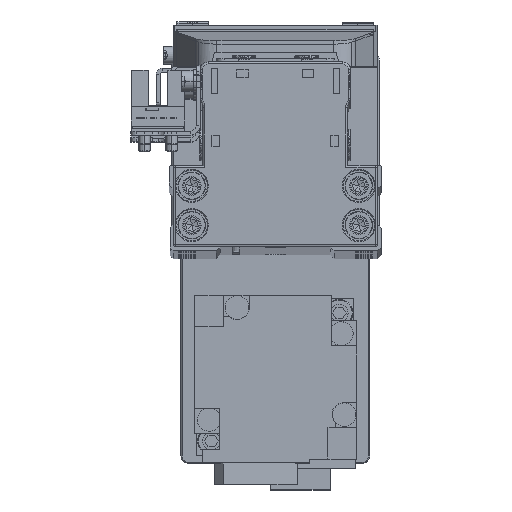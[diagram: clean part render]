
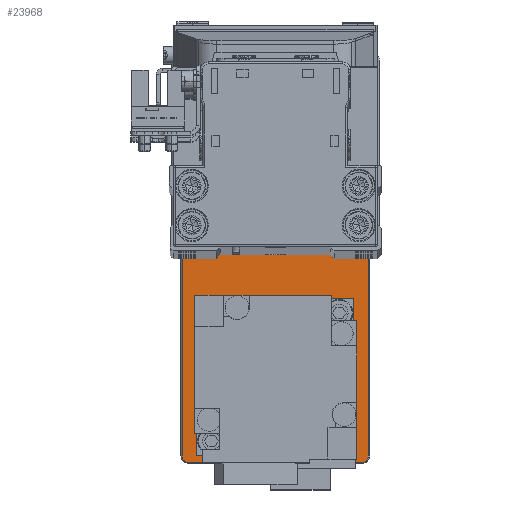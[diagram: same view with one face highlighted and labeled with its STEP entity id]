
A CAD part, top view. The second image highlights one B-rep face of the part: STEP entity #23968.
In plain terms, the highlighted planar face has unit normal (0, 0, 1).
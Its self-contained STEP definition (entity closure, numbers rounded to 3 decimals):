
#20 = EDGE_CURVE ( 'NONE', #6992, #15677, #23066, .T. ) ;
#161 = DIRECTION ( 'NONE',  ( 1., 0., 0. ) ) ;
#335 = EDGE_CURVE ( 'NONE', #16186, #21342, #17219, .T. ) ;
#877 = CIRCLE ( 'NONE', #24067, 1.7 ) ;
#1172 = ORIENTED_EDGE ( 'NONE', *, *, #9581, .T. ) ;
#1811 = CARTESIAN_POINT ( 'NONE',  ( -51.7, 22., 5. ) ) ;
#2199 = DIRECTION ( 'NONE',  ( 1., 0., 0. ) ) ;
#2227 = ORIENTED_EDGE ( 'NONE', *, *, #15640, .T. ) ;
#2600 = PLANE ( 'NONE',  #36663 ) ;
#2848 = ORIENTED_EDGE ( 'NONE', *, *, #34765, .T. ) ;
#2851 = CARTESIAN_POINT ( 'NONE',  ( -38.3, 0., 5. ) ) ;
#3266 = VECTOR ( 'NONE', #38837, 1000. ) ;
#4208 = VERTEX_POINT ( 'NONE', #27973 ) ;
#5016 = DIRECTION ( 'NONE',  ( 1., 0., 0. ) ) ;
#5106 = VERTEX_POINT ( 'NONE', #7471 ) ;
#5699 = FACE_BOUND ( 'NONE', #24199, .T. ) ;
#6992 = VERTEX_POINT ( 'NONE', #2851 ) ;
#7222 = CARTESIAN_POINT ( 'NONE',  ( -28., 0., 5. ) ) ;
#7467 = VECTOR ( 'NONE', #38652, 1000. ) ;
#7471 = CARTESIAN_POINT ( 'NONE',  ( 50., 23.7, 5. ) ) ;
#8096 = EDGE_CURVE ( 'NONE', #39281, #34410, #27742, .T. ) ;
#9573 = CARTESIAN_POINT ( 'NONE',  ( 42.8, 0., 5. ) ) ;
#9581 = EDGE_CURVE ( 'NONE', #35205, #5106, #32457, .T. ) ;
#9817 = CARTESIAN_POINT ( 'NONE',  ( -50., 22., 5. ) ) ;
#9850 = AXIS2_PLACEMENT_3D ( 'NONE', #9817, #22474, #35083 ) ;
#10304 = CARTESIAN_POINT ( 'NONE',  ( -50., 23.7, 5. ) ) ;
#10990 = DIRECTION ( 'NONE',  ( 1., 0., 0. ) ) ;
#12090 = EDGE_CURVE ( 'NONE', #22013, #4208, #877, .T. ) ;
#12272 = DIRECTION ( 'NONE',  ( 1., 0., 0. ) ) ;
#12598 = ORIENTED_EDGE ( 'NONE', *, *, #335, .T. ) ;
#12652 = CARTESIAN_POINT ( 'NONE',  ( -51.7, -22., 5. ) ) ;
#12768 = CARTESIAN_POINT ( 'NONE',  ( 50., -22., 5. ) ) ;
#13151 = AXIS2_PLACEMENT_3D ( 'NONE', #15060, #27723, #40318 ) ;
#13288 = CARTESIAN_POINT ( 'NONE',  ( 50., -23.7, 5. ) ) ;
#13406 = LINE ( 'NONE', #26073, #7467 ) ;
#13592 = LINE ( 'NONE', #26250, #3266 ) ;
#14594 = AXIS2_PLACEMENT_3D ( 'NONE', #28049, #40648, #12272 ) ;
#15060 = CARTESIAN_POINT ( 'NONE',  ( 30., 0., 5. ) ) ;
#15242 = CARTESIAN_POINT ( 'NONE',  ( 0., 0., 5. ) ) ;
#15640 = EDGE_CURVE ( 'NONE', #32479, #38866, #37303, .T. ) ;
#15676 = VECTOR ( 'NONE', #161, 1000. ) ;
#15677 = VERTEX_POINT ( 'NONE', #33894 ) ;
#15907 = LINE ( 'NONE', #28544, #15676 ) ;
#16186 = VERTEX_POINT ( 'NONE', #9573 ) ;
#16414 = AXIS2_PLACEMENT_3D ( 'NONE', #7222, #19891, #32514 ) ;
#17219 = CIRCLE ( 'NONE', #17226, 12.8 ) ;
#17226 = AXIS2_PLACEMENT_3D ( 'NONE', #26770, #39351, #10990 ) ;
#17963 = CARTESIAN_POINT ( 'NONE',  ( -50., -22., 5. ) ) ;
#18364 = FACE_BOUND ( 'NONE', #37158, .T. ) ;
#19190 = CARTESIAN_POINT ( 'NONE',  ( -50., -23.7, 5. ) ) ;
#19473 = AXIS2_PLACEMENT_3D ( 'NONE', #17963, #30595, #2199 ) ;
#19891 = DIRECTION ( 'NONE',  ( 0., 0., -1. ) ) ;
#20791 = CARTESIAN_POINT ( 'NONE',  ( -28., 0., 5. ) ) ;
#21342 = VERTEX_POINT ( 'NONE', #23765 ) ;
#21463 = ORIENTED_EDGE ( 'NONE', *, *, #12090, .T. ) ;
#22013 = VERTEX_POINT ( 'NONE', #13288 ) ;
#22308 = EDGE_CURVE ( 'NONE', #4208, #35205, #13406, .T. ) ;
#22361 = AXIS2_PLACEMENT_3D ( 'NONE', #20791, #33417, #5016 ) ;
#22474 = DIRECTION ( 'NONE',  ( 0., 0., 1. ) ) ;
#22495 = ORIENTED_EDGE ( 'NONE', *, *, #39945, .T. ) ;
#22777 = ORIENTED_EDGE ( 'NONE', *, *, #38528, .T. ) ;
#22962 = DIRECTION ( 'NONE',  ( -1., 0., 0. ) ) ;
#23066 = CIRCLE ( 'NONE', #22361, 10.3 ) ;
#23765 = CARTESIAN_POINT ( 'NONE',  ( 17.2, 0., 5. ) ) ;
#23968 = ADVANCED_FACE ( 'NONE', ( #5699, #18364, #30984 ), #2600, .T. ) ;
#24067 = AXIS2_PLACEMENT_3D ( 'NONE', #12768, #25442, #38022 ) ;
#24199 = EDGE_LOOP ( 'NONE', ( #12598, #24780 ) ) ;
#24780 = ORIENTED_EDGE ( 'NONE', *, *, #34520, .T. ) ;
#25442 = DIRECTION ( 'NONE',  ( 0., 0., 1. ) ) ;
#26030 = ORIENTED_EDGE ( 'NONE', *, *, #8096, .T. ) ;
#26073 = CARTESIAN_POINT ( 'NONE',  ( 51.7, 22., 5. ) ) ;
#26250 = CARTESIAN_POINT ( 'NONE',  ( -51.7, -22., 5. ) ) ;
#26379 = ORIENTED_EDGE ( 'NONE', *, *, #22308, .T. ) ;
#26770 = CARTESIAN_POINT ( 'NONE',  ( 30., 0., 5. ) ) ;
#27723 = DIRECTION ( 'NONE',  ( 0., 0., -1. ) ) ;
#27742 = CIRCLE ( 'NONE', #9850, 1.7 ) ;
#27886 = DIRECTION ( 'NONE',  ( 0., 0., 1. ) ) ;
#27973 = CARTESIAN_POINT ( 'NONE',  ( 51.7, -22., 5. ) ) ;
#28049 = CARTESIAN_POINT ( 'NONE',  ( 50., 22., 5. ) ) ;
#28544 = CARTESIAN_POINT ( 'NONE',  ( 50., -23.7, 5. ) ) ;
#30595 = DIRECTION ( 'NONE',  ( 0., 0., 1. ) ) ;
#30984 = FACE_OUTER_BOUND ( 'NONE', #35879, .T. ) ;
#31050 = CIRCLE ( 'NONE', #13151, 12.8 ) ;
#31556 = VECTOR ( 'NONE', #22962, 1000. ) ;
#32457 = CIRCLE ( 'NONE', #14594, 1.7 ) ;
#32479 = VERTEX_POINT ( 'NONE', #12652 ) ;
#32514 = DIRECTION ( 'NONE',  ( 1., 0., 0. ) ) ;
#33417 = DIRECTION ( 'NONE',  ( 0., 0., -1. ) ) ;
#33894 = CARTESIAN_POINT ( 'NONE',  ( -17.7, 0., 5. ) ) ;
#34263 = CIRCLE ( 'NONE', #16414, 10.3 ) ;
#34410 = VERTEX_POINT ( 'NONE', #1811 ) ;
#34520 = EDGE_CURVE ( 'NONE', #21342, #16186, #31050, .T. ) ;
#34765 = EDGE_CURVE ( 'NONE', #34410, #32479, #13592, .T. ) ;
#35083 = DIRECTION ( 'NONE',  ( 1., 0., 0. ) ) ;
#35205 = VERTEX_POINT ( 'NONE', #38589 ) ;
#35879 = EDGE_LOOP ( 'NONE', ( #22495, #21463, #26379, #1172, #22777, #26030, #2848, #2227 ) ) ;
#36317 = ORIENTED_EDGE ( 'NONE', *, *, #39570, .T. ) ;
#36663 = AXIS2_PLACEMENT_3D ( 'NONE', #15242, #27886, #40496 ) ;
#37158 = EDGE_LOOP ( 'NONE', ( #36317, #37909 ) ) ;
#37303 = CIRCLE ( 'NONE', #19473, 1.7 ) ;
#37539 = CARTESIAN_POINT ( 'NONE',  ( -50., 23.7, 5. ) ) ;
#37909 = ORIENTED_EDGE ( 'NONE', *, *, #20, .T. ) ;
#38022 = DIRECTION ( 'NONE',  ( 1., 0., 0. ) ) ;
#38528 = EDGE_CURVE ( 'NONE', #5106, #39281, #38660, .T. ) ;
#38589 = CARTESIAN_POINT ( 'NONE',  ( 51.7, 22., 5. ) ) ;
#38652 = DIRECTION ( 'NONE',  ( 0., 1., 0. ) ) ;
#38660 = LINE ( 'NONE', #10304, #31556 ) ;
#38837 = DIRECTION ( 'NONE',  ( 0., -1., 0. ) ) ;
#38866 = VERTEX_POINT ( 'NONE', #19190 ) ;
#39281 = VERTEX_POINT ( 'NONE', #37539 ) ;
#39351 = DIRECTION ( 'NONE',  ( 0., 0., -1. ) ) ;
#39570 = EDGE_CURVE ( 'NONE', #15677, #6992, #34263, .T. ) ;
#39945 = EDGE_CURVE ( 'NONE', #38866, #22013, #15907, .T. ) ;
#40318 = DIRECTION ( 'NONE',  ( 1., 0., 0. ) ) ;
#40496 = DIRECTION ( 'NONE',  ( 1., 0., 0. ) ) ;
#40648 = DIRECTION ( 'NONE',  ( 0., 0., 1. ) ) ;
